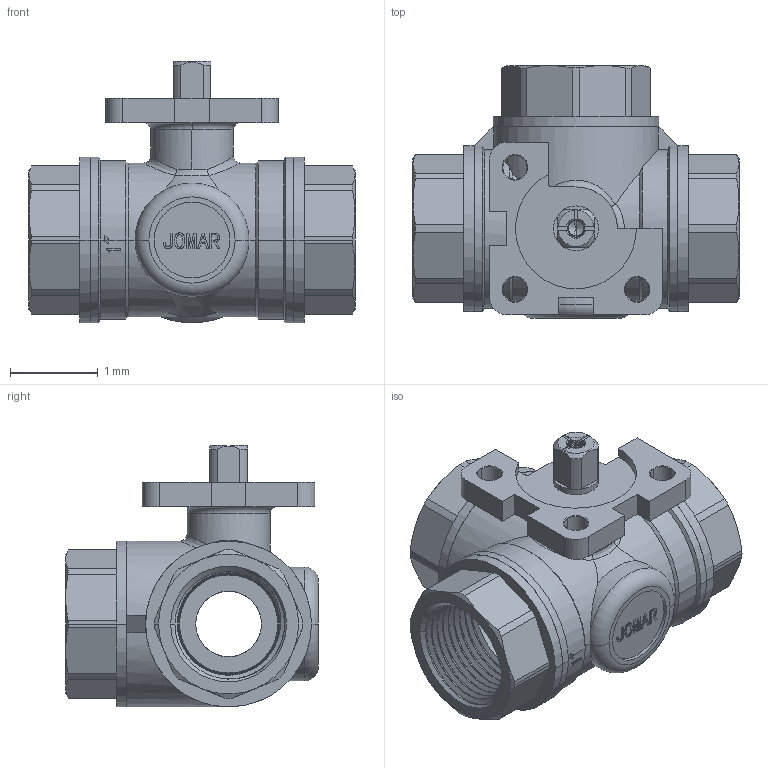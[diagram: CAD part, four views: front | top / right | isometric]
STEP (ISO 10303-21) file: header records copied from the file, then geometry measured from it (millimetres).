
FILE_DESCRIPTION(('Open CASCADE Model'),'2;1');
FILE_NAME('Open CASCADE Shape Model','2023-01-24T15:48:49',('Author'),( 'Open CASCADE'),'Open CASCADE STEP processor 7.3','Open CASCADE 7.3' ,'Unknown');
FILE_SCHEMA(('AUTOMOTIVE_DESIGN { 1 0 10303 214 1 1 1 1 }'));
Length unit declared in the file: millimetre
Products named in the file (18): Open CASCADE STEP translator 7.3 1; Open CASCADE STEP translator 7.3 1.1; Open CASCADE STEP translator 7.3 1.2; Open CASCADE STEP translator 7.3 1.3; Open CASCADE STEP translator 7.3 1.4; Open CASCADE STEP translator 7.3 1.5; Open CASCADE STEP translator 7.3 1.6; Open CASCADE STEP translator 7.3 1.7; Open CASCADE STEP translator 7.3 1.8; Open CASCADE STEP translator 7.3 1.9; Open CASCADE STEP translator 7.3 1.10; Open CASCADE STEP translator 7.3 1.11; Open CASCADE STEP translator 7.3 1.12; Open CASCADE STEP translator 7.3 1.13; Open CASCADE STEP translator 7.3 1.14; Open CASCADE STEP translator 7.3 1.15; Open CASCADE STEP translator 7.3 1.16; Open CASCADE STEP translator 7.3 1.17
Assembly tree (17 placements, depth 2):
  Open CASCADE STEP translator 7.3 1
    Open CASCADE STEP translator 7.3 1.1
    Open CASCADE STEP translator 7.3 1.2
    Open CASCADE STEP translator 7.3 1.3
    Open CASCADE STEP translator 7.3 1.4
    Open CASCADE STEP translator 7.3 1.5
    Open CASCADE STEP translator 7.3 1.6
    Open CASCADE STEP translator 7.3 1.7
    Open CASCADE STEP translator 7.3 1.8
    Open CASCADE STEP translator 7.3 1.9
    Open CASCADE STEP translator 7.3 1.10
    Open CASCADE STEP translator 7.3 1.11
    Open CASCADE STEP translator 7.3 1.12
    Open CASCADE STEP translator 7.3 1.13
    Open CASCADE STEP translator 7.3 1.14
    Open CASCADE STEP translator 7.3 1.15
    Open CASCADE STEP translator 7.3 1.16
    Open CASCADE STEP translator 7.3 1.17
Bounding box: 3.72 x 2.88 x 2.98 mm (x, y, z)
Volume: 7.9 mm3; surface area: 122.8 mm2
Topology: 17 solids, 17 shells, 806 faces, 2070 edges, 1325 vertices
Faces by surface type: cylinder 275, plane 210, cone 161, bspline 94, torus 52, sphere 10, revolution 4
Entity records: 129093 total; most frequent: CARTESIAN_POINT 91248, DIRECTION 6060, ORIENTED_EDGE 4130, PCURVE 4130, DEFINITIONAL_REPRESENTATION 4130, LINE 3059, VECTOR 3059, EDGE_CURVE 2065
